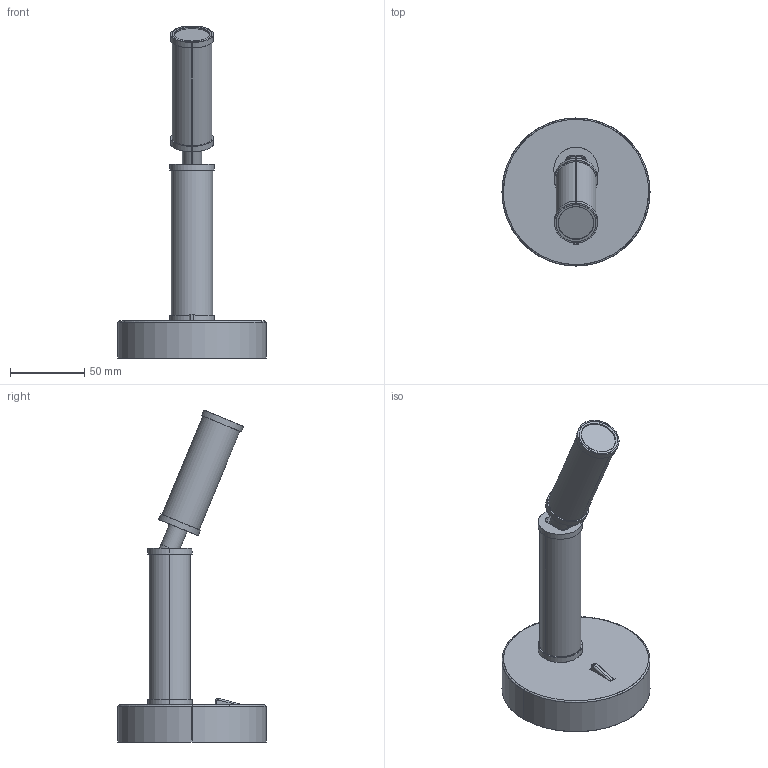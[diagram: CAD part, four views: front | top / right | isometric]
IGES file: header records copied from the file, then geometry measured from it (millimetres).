
Start section: SolidWorks IGES file using analytic representation for surfaces
Global section: file name: C:\Users\Agustin\Desktop\ENERO 2025\2D-3D\2D-3D COCO 1342\COCO A1342\COCO_A1342.IGS; native system: SolidWorks 2018; preprocessor: SolidWorks 2018; author: Agustin; date: 250117.152023; units: millimetre
Bounding box: 100 x 100 x 224.31 mm (x, y, z)
Surface area: 49815.9 mm2 (no closed solid volume)
Topology: 0 solids, 0 shells, 80 faces, 1590 edges, 1590 vertices
Faces by surface type: bspline 44, revolution 36
